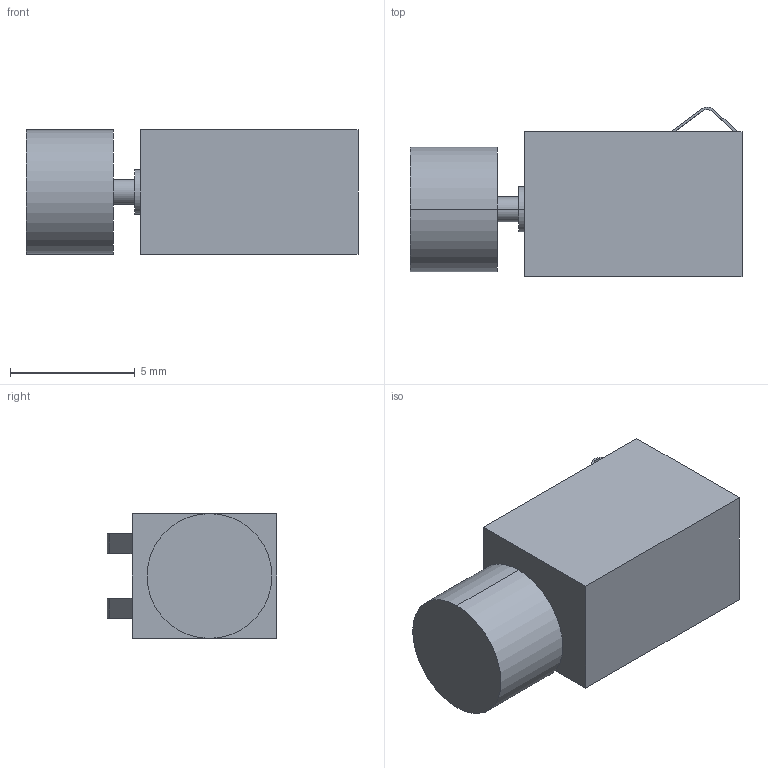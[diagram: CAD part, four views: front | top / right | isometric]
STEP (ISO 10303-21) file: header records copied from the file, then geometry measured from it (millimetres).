
FILE_DESCRIPTION((''),'2;1');
FILE_NAME('VIBRATOR-P0408B-13-P2H_PRT','2008-06-30T',('GRA'),(''),'PRO/ENGINEER BY PARAMETRIC TECHNOLOGY CORPORATION, 2006170','PRO/ENGINEER BY PARAMETRIC TECHNOLOGY CORPORATION, 2006170','');
FILE_SCHEMA(('CONFIG_CONTROL_DESIGN'));
Length unit declared in the file: millimetre
Products named in the file (1): VIBRATOR-P0408B-13-P2H_PRT
Bounding box: 13.3 x 6.8 x 5 mm (x, y, z)
Volume: 322.8 mm3; surface area: 353.8 mm2
Topology: 1 solids, 1 shells, 31 faces, 78 edges, 52 vertices
Faces by surface type: plane 21, cylinder 10
Entity records: 978 total; most frequent: CARTESIAN_POINT 161, DIRECTION 160, ORIENTED_EDGE 156, EDGE_CURVE 78, VECTOR 58, LINE 58, VERTEX_POINT 52, AXIS2_PLACEMENT_3D 51
